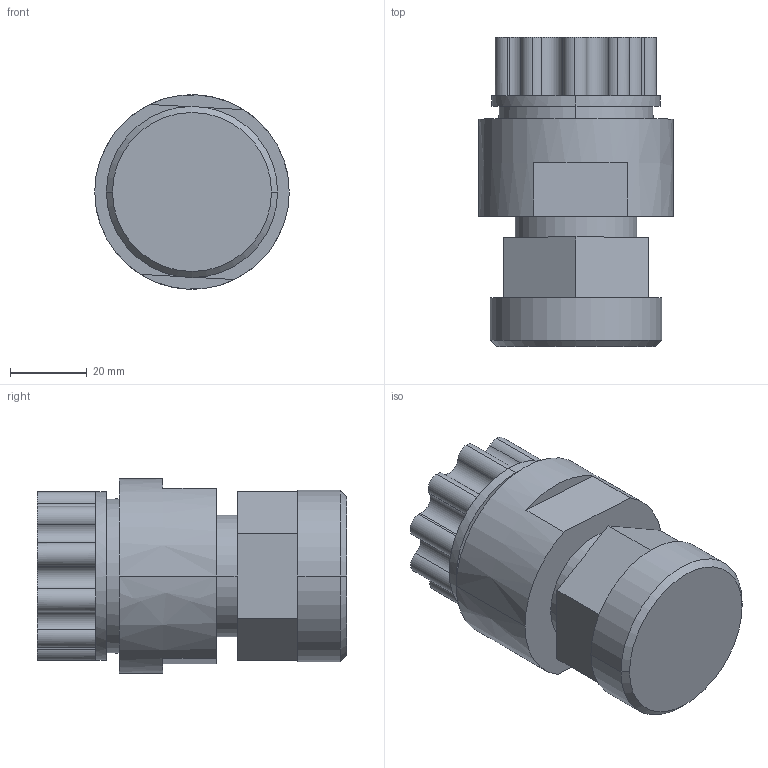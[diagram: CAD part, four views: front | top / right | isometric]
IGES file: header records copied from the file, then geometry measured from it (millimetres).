
Start section: SolidWorks IGES file using analytic representation for surfaces
Global section: file name: S:\Product Visuals\REVISED-60L-TOP-MOUNT-FITTINGS\IGS\synchro-flare\16-synchro-flare-with-top-mount-adapter.IGS; native system: SolidWorks 2012; preprocessor: SolidWorks 2012; author: rachel.dressel; date: 121127.133846; units: inch
Bounding box: 50.8 x 80.72 x 50.8 mm (x, y, z)
Volume: 114536.1 mm3; surface area: 18769.2 mm2
Topology: 1 solids, 1 shells, 71 faces, 177 edges, 114 vertices
Faces by surface type: revolution 43, plane 28
